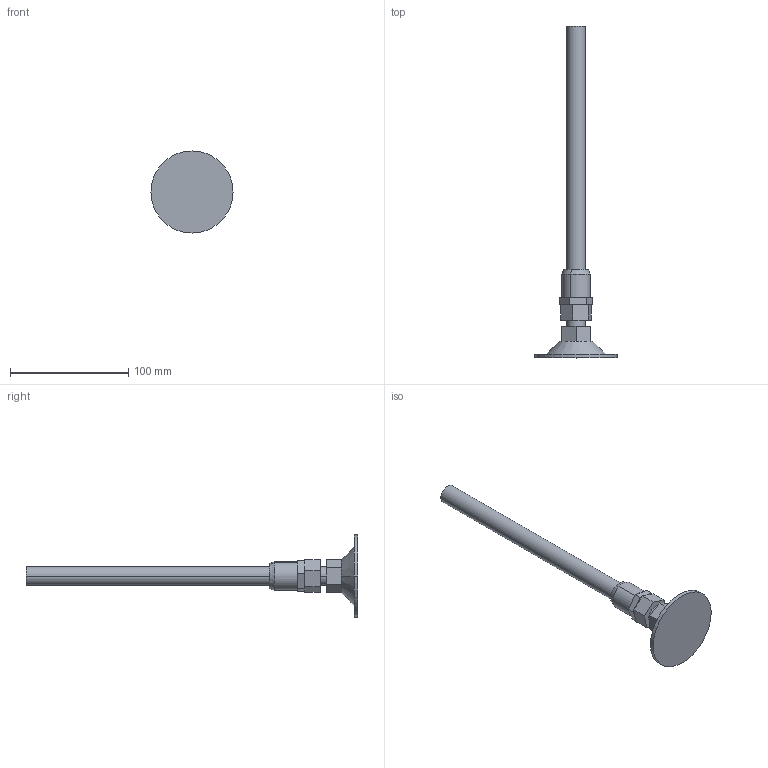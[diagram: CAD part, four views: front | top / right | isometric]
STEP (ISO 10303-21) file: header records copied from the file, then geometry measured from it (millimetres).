
FILE_DESCRIPTION (( 'STEP AP214' ), '1' );
FILE_NAME ('JB-404L.step', '2024-02-15T05:11:26', ( 'catia' ), ( 'HP Inc.' ), 'SwSTEP 2.0', 'SolidWorks 2021', '' );
FILE_SCHEMA (( 'AUTOMOTIVE_DESIGN' ));
Length unit declared in the file: millimetre
Products named in the file (4): JB-404L; JB-404L_轡寶M16; JB-406
Assembly tree (3 placements, depth 2):
  JB-404L
    JB-404L
    JB-406
    JB-404L_轡寶M16
Bounding box: 69.5 x 281 x 69.5 mm (x, y, z)
Volume: 94410.7 mm3; surface area: 29311.3 mm2
Topology: 3 solids, 3 shells, 47 faces, 106 edges, 68 vertices
Faces by surface type: plane 33, cylinder 10, cone 4
Entity records: 1470 total; most frequent: DIRECTION 244, CARTESIAN_POINT 227, ORIENTED_EDGE 212, EDGE_CURVE 106, AXIS2_PLACEMENT_3D 85, VECTOR 74, LINE 74, VERTEX_POINT 68
